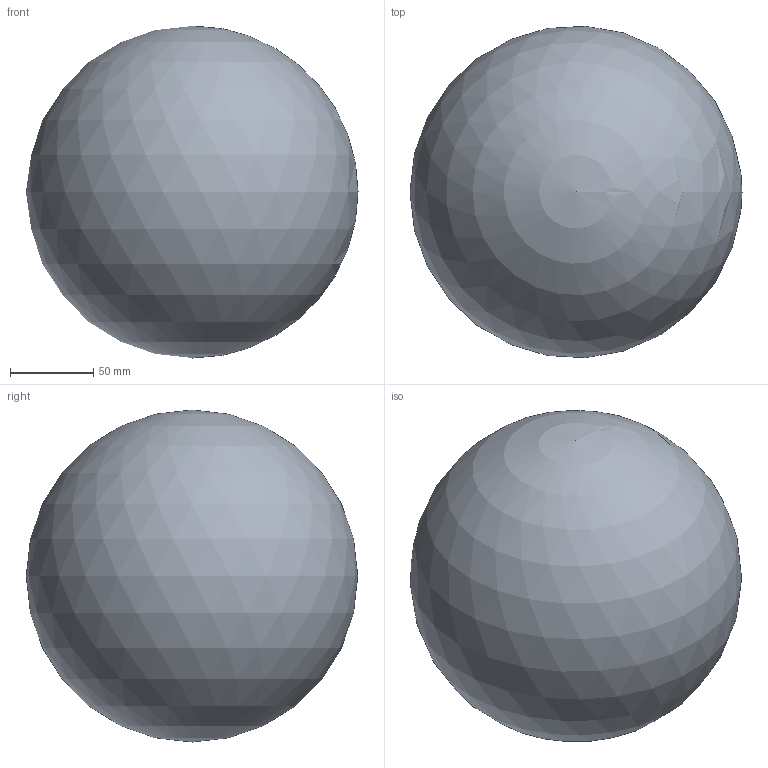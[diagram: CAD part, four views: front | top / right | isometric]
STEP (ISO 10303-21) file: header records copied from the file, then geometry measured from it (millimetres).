
FILE_DESCRIPTION(('FreeCAD Model'),'2;1');
FILE_NAME( 'D:/temp/dielectric_sphere_electric_field/3D/sphere_50mm_q.step', '2025-01-15T18:20:05',('Author'),(''), 'Open CASCADE STEP processor 7.2','FreeCAD','Unknown');
FILE_SCHEMA(('AUTOMOTIVE_DESIGN { 1 0 10303 214 1 1 1 1 }'));
Length unit declared in the file: millimetre
Products named in the file (3): Cut001; Cut; Common
Bounding box: 200 x 199.66 x 200 mm (x, y, z)
Volume: 3730641.3 mm3; surface area: 167878.9 mm2
Topology: 3 solids, 4 shells, 10 faces, 22 edges, 13 vertices
Faces by surface type: plane 6, sphere 4
Entity records: 493 total; most frequent: CARTESIAN_POINT 73, DIRECTION 66, ORIENTED_EDGE 26, PCURVE 26, DEFINITIONAL_REPRESENTATION 26, LINE 26, VECTOR 26, AXIS2_PLACEMENT_3D 18
